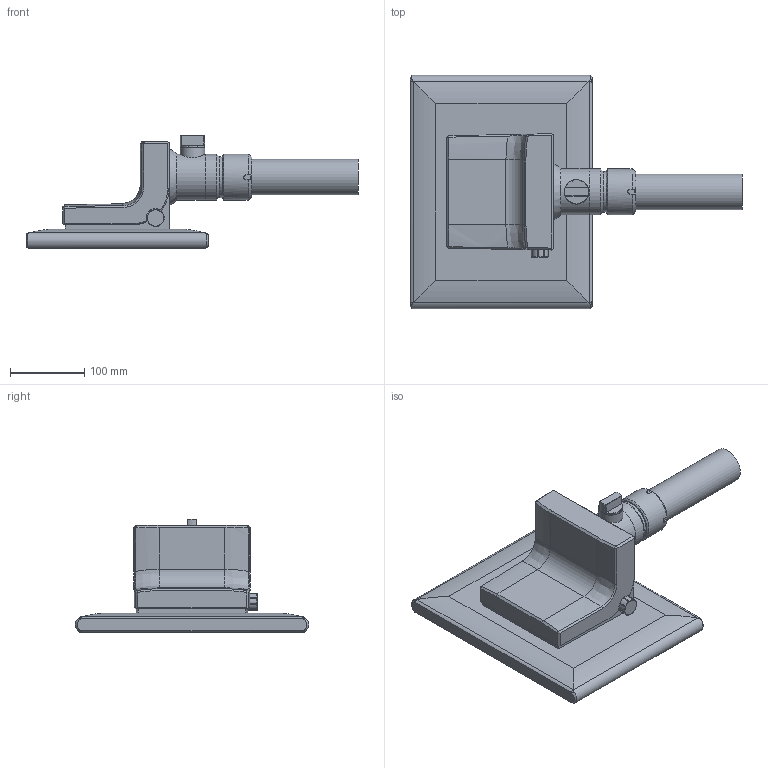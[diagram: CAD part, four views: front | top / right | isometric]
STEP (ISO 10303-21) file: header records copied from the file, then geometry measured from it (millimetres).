
FILE_DESCRIPTION((''),'2;1');
FILE_NAME('X:\0-inventor\0-3d-Teile\PC-Compo\solids\CP39xx\0-Ausgabe\CP3912-M750-E274.stp','2013-06-06T11:22:41',('christiankreuzer'),(''),'Autodesk Inventor 2013','Autodesk Inventor 2013','');
FILE_SCHEMA(('AUTOMOTIVE_DESIGN { 1 0 10303 214 1 1 1 1 }'));
Length unit declared in the file: millimetre
Products named in the file (1): CP3912-M750-E274
Bounding box: 447.35 x 314.62 x 152.44 mm (x, y, z)
Volume: 3677692.7 mm3; surface area: 413016.9 mm2
Topology: 2 solids, 2 shells, 464 faces, 1197 edges, 761 vertices
Faces by surface type: plane 210, cylinder 134, bspline 75, cone 43, sphere 1, torus 1
Full cylindrical faces by diameter (mm): 20 x1, 33 x1, 48 x1, 55 x1, 59.699 x1, 62 x3
Entity records: 17197 total; most frequent: CARTESIAN_POINT 5908, ORIENTED_EDGE 2362, DIRECTION 2042, EDGE_CURVE 1181, VERTEX_POINT 757, AXIS2_PLACEMENT_3D 681, VECTOR 680, LINE 680
